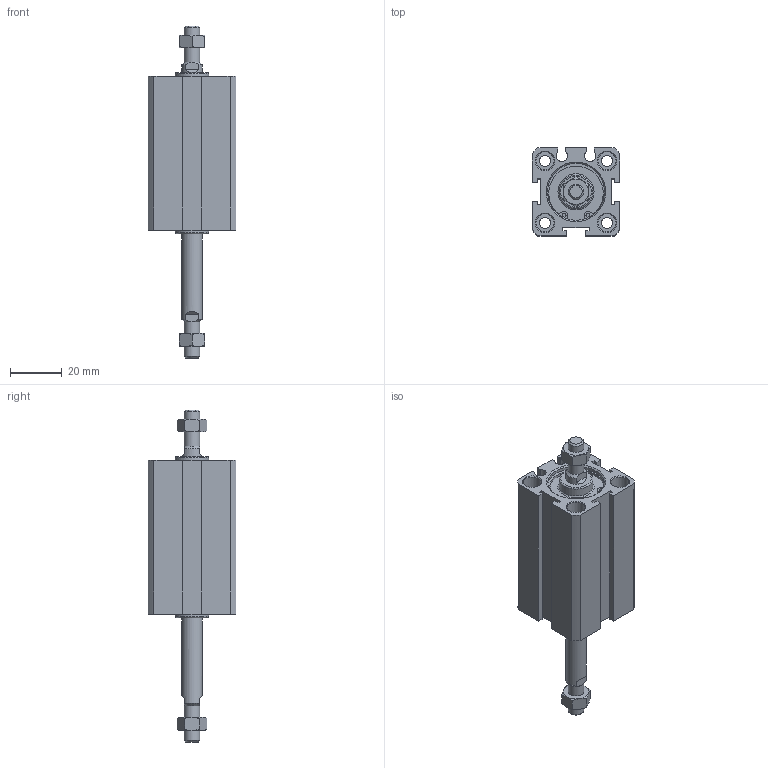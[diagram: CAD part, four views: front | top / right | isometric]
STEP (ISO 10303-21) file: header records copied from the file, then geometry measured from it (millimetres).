
FILE_DESCRIPTION((''),'2;1');
FILE_NAME('I:\3D電子目錄\氣缸\JDD\JDD-BS\JDD20-BS\JDD20x30-BS.stp','2007-02-27T13:33:34',('662F206'),(''),'Autodesk Inventor 10','Autodesk Inventor 10','');
FILE_SCHEMA(('AUTOMOTIVE_DESIGN { 1 0 10303 214 1 1 1 1 }'));
Length unit declared in the file: millimetre
Products named in the file (3): JDD20-BS; R 形環 23
Assembly tree (3 placements, depth 2):
  JDD20-BS
    JDD20-BS
    R 形環 23  x2
Bounding box: 34 x 34 x 128.5 mm (x, y, z)
Volume: 58815.5 mm3; surface area: 20379.9 mm2
Topology: 3 solids, 3 shells, 179 faces, 407 edges, 260 vertices
Faces by surface type: plane 84, cylinder 51, cone 32, bspline 10, torus 2
Full cylindrical faces by diameter (mm): 1.5 x6, 4.3 x4, 6 x4, 7 x8, 8 x1, 13 x2, 22 x4, 23.2 x2
Entity records: 4509 total; most frequent: CARTESIAN_POINT 953, DIRECTION 732, ORIENTED_EDGE 638, EDGE_CURVE 319, AXIS2_PLACEMENT_3D 294, EDGE_LOOP 256, VERTEX_POINT 233, FACE_OUTER_BOUND 167
